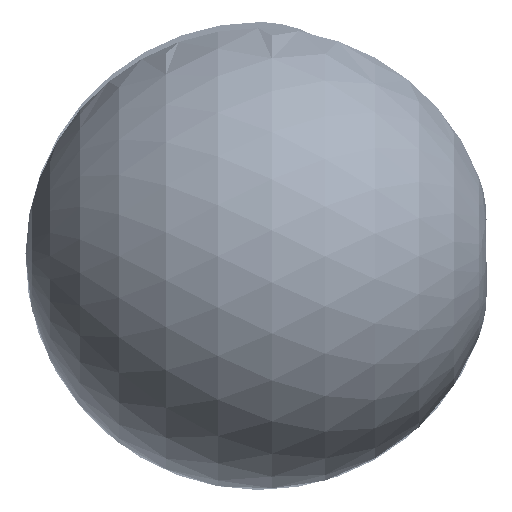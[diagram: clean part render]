
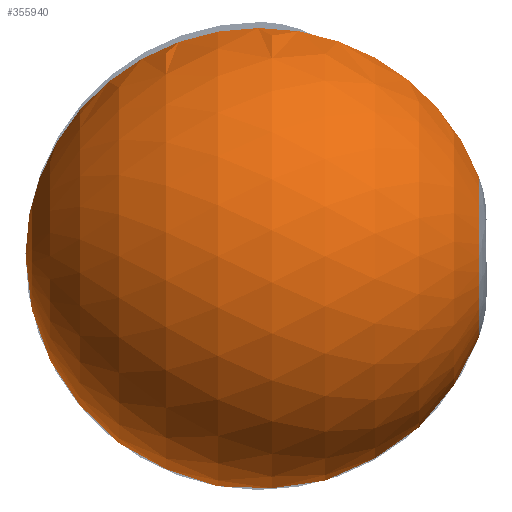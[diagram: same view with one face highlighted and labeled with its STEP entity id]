
A CAD part, left-side view. The second image highlights one B-rep face of the part: STEP entity #355940.
In plain terms, the highlighted spherical face has radius 1703.3 mm.
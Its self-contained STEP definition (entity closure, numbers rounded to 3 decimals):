
#355825=CARTESIAN_POINT('',(0.,537.,-149.));
#355826=DIRECTION('',(0.974,0.,-0.225));
#355827=DIRECTION('',(0.,1.,0.));
#355828=AXIS2_PLACEMENT_3D('',#355825,#355826,#355827);
#355830=CARTESIAN_POINT('',(0.,-1057.778,-149.));
#355831=DIRECTION('',(0.,-1.,0.));
#355832=DIRECTION('',(-0.225,0.,0.974));
#355833=AXIS2_PLACEMENT_3D('',#355830,#355831,#355832);
#355840=CARTESIAN_POINT('',(0.,537.,-149.));
#355841=DIRECTION('',(0.974,0.,0.225));
#355842=DIRECTION('',(0.,1.,0.));
#355843=AXIS2_PLACEMENT_3D('',#355840,#355841,#355842);
#355860=CARTESIAN_POINT('',(134.579,-1057.778,
433.927));
#355862=VERTEX_POINT('',#355860);
#355864=CARTESIAN_POINT('',(0.,2240.3,-149.));
#355865=VERTEX_POINT('',#355864);
#355870=CARTESIAN_POINT('',(-134.579,-1057.778,
433.927));
#355871=VERTEX_POINT('',#355870);
#355929=CARTESIAN_POINT('',(0.,537.,-149.));
#355930=DIRECTION('',(0.,-1.,0.));
#355931=DIRECTION('',(-0.225,0.,-0.974));
#355932=AXIS2_PLACEMENT_3D('',#355929,#355930,#355931);
#355933=SPHERICAL_SURFACE('',#355932,1703.3);
#355934=ORIENTED_EDGE('',*,*,#355887,.F.);
#355936=ORIENTED_EDGE('',*,*,#355935,.T.);
#355937=ORIENTED_EDGE('',*,*,#355922,.T.);
#355938=EDGE_LOOP('',(#355934,#355936,#355937));
#355939=FACE_OUTER_BOUND('',#355938,.F.);
#355940=ADVANCED_FACE('',(#355939),#355933,.T.);
#355829=CIRCLE('',#355828,1703.3);
#355834=CIRCLE('',#355833,598.26);
#355844=CIRCLE('',#355843,1703.3);
#355887=EDGE_CURVE('',#355865,#355862,#355829,.T.);
#355922=EDGE_CURVE('',#355871,#355862,#355834,.T.);
#355935=EDGE_CURVE('',#355865,#355871,#355844,.T.);
